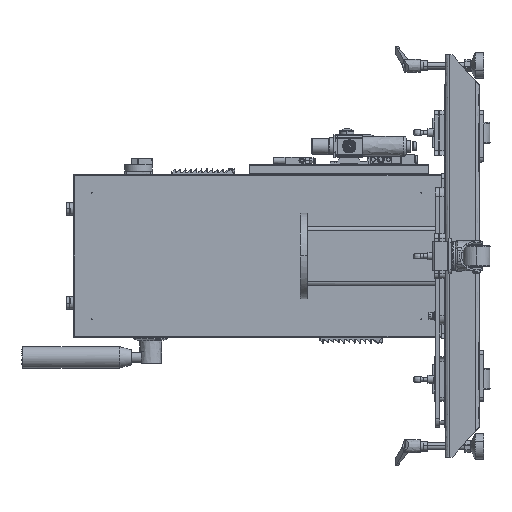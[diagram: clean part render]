
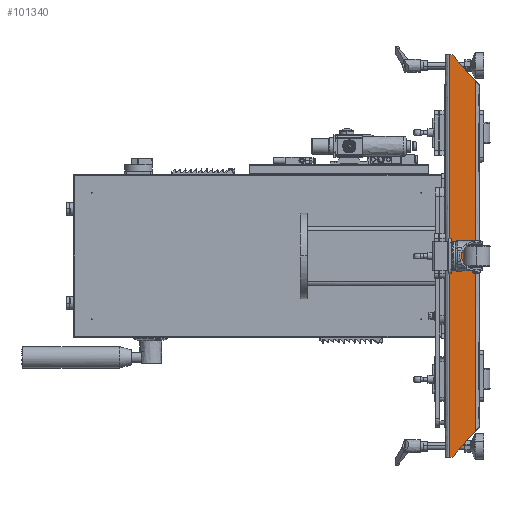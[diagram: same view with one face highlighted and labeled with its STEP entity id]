
A CAD part, front view. The second image highlights one B-rep face of the part: STEP entity #101340.
In plain terms, the highlighted free-form (B-spline) face has degree [1, 1] with [2, 2] control points.
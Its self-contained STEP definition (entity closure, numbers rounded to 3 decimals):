
#7075 = CARTESIAN_POINT ( 'NONE',  ( -48.129, -658.563, -450.096 ) ) ;
#8321 = CARTESIAN_POINT ( 'NONE',  ( 11.871, -658.563, 489.904 ) ) ;
#8752 = CARTESIAN_POINT ( 'NONE',  ( -41.157, -658.563, 489.904 ) ) ;
#16929 = ORIENTED_EDGE ( 'NONE', *, *, #27651, .F. ) ;
#20384 = CARTESIAN_POINT ( 'NONE',  ( 11.871, -658.563, -450.096 ) ) ;
#26228 = CARTESIAN_POINT ( 'NONE',  ( 11.871, -658.563, 431.01 ) ) ;
#27103 = EDGE_CURVE ( 'NONE', #60069, #57871, #68669, .T. ) ;
#27651 = EDGE_CURVE ( 'NONE', #60069, #80905, #33848, .T. ) ;
#29221 = CARTESIAN_POINT ( 'NONE',  ( 11.871, -658.563, -391.202 ) ) ;
#29281 = CARTESIAN_POINT ( 'NONE',  ( -48.129, -658.563, 489.904 ) ) ;
#30423 = ORIENTED_EDGE ( 'NONE', *, *, #43955, .F. ) ;
#33848 = B_SPLINE_CURVE_WITH_KNOTS ( 'NONE', 1,
 ( #115477, #96857 ),
 .UNSPECIFIED., .F., .F.,
 ( 2, 2 ),
 ( 0., 1. ),
 .UNSPECIFIED. ) ;
#35118 = CARTESIAN_POINT ( 'NONE',  ( -48.129, -658.563, -450.096 ) ) ;
#43063 = CARTESIAN_POINT ( 'NONE',  ( -41.157, -658.563, -450.096 ) ) ;
#43955 = EDGE_CURVE ( 'NONE', #108383, #106217, #54032, .T. ) ;
#45616 = B_SPLINE_CURVE_WITH_KNOTS ( 'NONE', 1,
 ( #7075, #124153 ),
 .UNSPECIFIED., .F., .F.,
 ( 2, 2 ),
 ( 0., 1. ),
 .UNSPECIFIED. ) ;
#47636 = CARTESIAN_POINT ( 'NONE',  ( 11.871, -658.563, -391.202 ) ) ;
#51245 = CARTESIAN_POINT ( 'NONE',  ( 11.871, -658.563, -391.202 ) ) ;
#54032 = B_SPLINE_CURVE_WITH_KNOTS ( 'NONE', 1,
 ( #29221, #103510 ),
 .UNSPECIFIED., .F., .F.,
 ( 2, 2 ),
 ( 0., 1. ),
 .UNSPECIFIED. ) ;
#54145 = FACE_OUTER_BOUND ( 'NONE', #119186, .T. ) ;
#56614 = EDGE_CURVE ( 'NONE', #80905, #101023, #91710, .T. ) ;
#57871 = VERTEX_POINT ( 'NONE', #35118 ) ;
#60069 = VERTEX_POINT ( 'NONE', #102080 ) ;
#60413 = CARTESIAN_POINT ( 'NONE',  ( 11.871, -658.563, 431.01 ) ) ;
#68669 = B_SPLINE_CURVE_WITH_KNOTS ( 'NONE', 1,
 ( #101772, #72986 ),
 .UNSPECIFIED., .F., .F.,
 ( 2, 2 ),
 ( 0., 1. ),
 .UNSPECIFIED. ) ;
#72986 = CARTESIAN_POINT ( 'NONE',  ( -48.129, -658.563, -450.096 ) ) ;
#73388 = ORIENTED_EDGE ( 'NONE', *, *, #103915, .T. ) ;
#80905 = VERTEX_POINT ( 'NONE', #109842 ) ;
#84306 = ORIENTED_EDGE ( 'NONE', *, *, #99082, .F. ) ;
#86428 = CARTESIAN_POINT ( 'NONE',  ( 11.871, -658.563, 431.01 ) ) ;
#87822 = B_SPLINE_SURFACE_WITH_KNOTS ( 'NONE', 1, 1, ( 
 ( #92897, #20384 ),
 ( #29281, #8321 ) ),
 .UNSPECIFIED., .F., .F., .F.,
 ( 2, 2 ),
 ( 2, 2 ),
 ( 0., 1. ),
 ( 0., 1. ),
 .UNSPECIFIED. ) ;
#91710 = B_SPLINE_CURVE_WITH_KNOTS ( 'NONE', 1,
 ( #8752, #60413 ),
 .UNSPECIFIED., .F., .F.,
 ( 2, 2 ),
 ( 0., 1. ),
 .UNSPECIFIED. ) ;
#92897 = CARTESIAN_POINT ( 'NONE',  ( -48.129, -658.563, -450.096 ) ) ;
#96857 = CARTESIAN_POINT ( 'NONE',  ( -41.157, -658.563, 489.904 ) ) ;
#99082 = EDGE_CURVE ( 'NONE', #101023, #108383, #111840, .T. ) ;
#101023 = VERTEX_POINT ( 'NONE', #86428 ) ;
#101340 = ADVANCED_FACE ( 'NONE', ( #54145 ), #87822, .F. ) ;
#101772 = CARTESIAN_POINT ( 'NONE',  ( -48.129, -658.563, 489.904 ) ) ;
#102080 = CARTESIAN_POINT ( 'NONE',  ( -48.129, -658.563, 489.904 ) ) ;
#103510 = CARTESIAN_POINT ( 'NONE',  ( -41.157, -658.563, -450.096 ) ) ;
#103915 = EDGE_CURVE ( 'NONE', #57871, #106217, #45616, .T. ) ;
#104920 = ORIENTED_EDGE ( 'NONE', *, *, #27103, .T. ) ;
#106217 = VERTEX_POINT ( 'NONE', #43063 ) ;
#108383 = VERTEX_POINT ( 'NONE', #51245 ) ;
#109842 = CARTESIAN_POINT ( 'NONE',  ( -41.157, -658.563, 489.904 ) ) ;
#111840 = B_SPLINE_CURVE_WITH_KNOTS ( 'NONE', 1,
 ( #26228, #47636 ),
 .UNSPECIFIED., .F., .F.,
 ( 2, 2 ),
 ( -1., 0. ),
 .UNSPECIFIED. ) ;
#115477 = CARTESIAN_POINT ( 'NONE',  ( -48.129, -658.563, 489.904 ) ) ;
#119186 = EDGE_LOOP ( 'NONE', ( #16929, #104920, #73388, #30423, #84306, #120667 ) ) ;
#120667 = ORIENTED_EDGE ( 'NONE', *, *, #56614, .F. ) ;
#124153 = CARTESIAN_POINT ( 'NONE',  ( -41.157, -658.563, -450.096 ) ) ;
